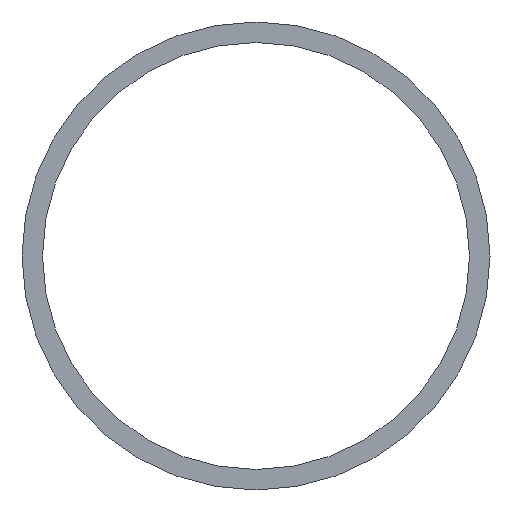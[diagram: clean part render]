
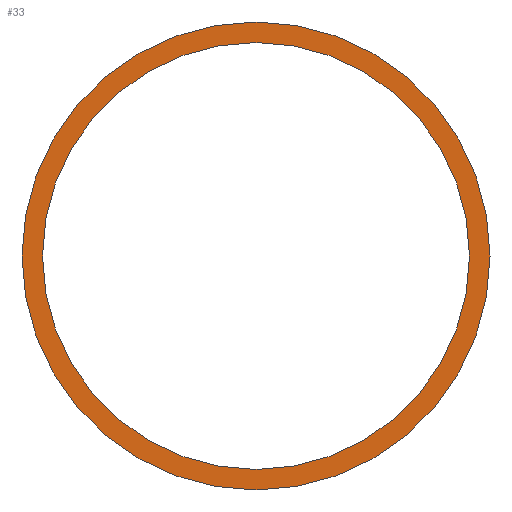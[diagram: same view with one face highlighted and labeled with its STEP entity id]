
A CAD part, front view. The second image highlights one B-rep face of the part: STEP entity #33.
In plain terms, the highlighted planar face has unit normal (0, -1, 0).
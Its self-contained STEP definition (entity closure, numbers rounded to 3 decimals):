
#27=FACE_BOUND('',#45,.F.);
#29=PLANE('',#135);
#33=ADVANCED_FACE('',(#27,#39),#29,.T.);
#39=FACE_OUTER_BOUND('',#46,.F.);
#45=EDGE_LOOP('',(#59,#60));
#46=EDGE_LOOP('',(#61,#62));
#59=ORIENTED_EDGE('',*,*,#103,.T.);
#60=ORIENTED_EDGE('',*,*,#95,.T.);
#61=ORIENTED_EDGE('',*,*,#106,.F.);
#62=ORIENTED_EDGE('',*,*,#98,.F.);
#95=EDGE_CURVE('',#122,#121,#107,.T.);
#98=EDGE_CURVE('',#116,#115,#110,.T.);
#103=EDGE_CURVE('',#121,#122,#111,.T.);
#106=EDGE_CURVE('',#115,#116,#114,.T.);
#107=CIRCLE('',#125,1.715);
#110=CIRCLE('',#128,1.88);
#111=CIRCLE('',#129,1.715);
#114=CIRCLE('',#132,1.88);
#115=VERTEX_POINT('',#177);
#116=VERTEX_POINT('',#178);
#121=VERTEX_POINT('',#183);
#122=VERTEX_POINT('',#184);
#125=AXIS2_PLACEMENT_3D('',#185,#142,#143);
#128=AXIS2_PLACEMENT_3D('',#188,#148,#149);
#129=AXIS2_PLACEMENT_3D('',#193,#154,#155);
#132=AXIS2_PLACEMENT_3D('',#196,#160,#161);
#135=AXIS2_PLACEMENT_3D('',#199,#166,#167);
#142=DIRECTION('',(0.,-1.,0.));
#143=DIRECTION('',(-1.,0.,0.));
#148=DIRECTION('',(0.,-1.,0.));
#149=DIRECTION('',(-1.,0.,0.));
#154=DIRECTION('',(0.,-1.,0.));
#155=DIRECTION('',(1.,0.,0.));
#160=DIRECTION('',(0.,-1.,0.));
#161=DIRECTION('',(1.,0.,0.));
#166=DIRECTION('',(0.,-1.,0.));
#167=DIRECTION('',(0.,0.,1.));
#177=CARTESIAN_POINT('',(789.934,596.316,300.77));
#178=CARTESIAN_POINT('',(786.175,596.316,300.77));
#183=CARTESIAN_POINT('',(789.769,596.316,300.77));
#184=CARTESIAN_POINT('',(786.34,596.316,300.77));
#185=CARTESIAN_POINT('',(788.054,596.316,300.77));
#188=CARTESIAN_POINT('',(788.054,596.316,300.77));
#193=CARTESIAN_POINT('',(788.054,596.316,300.77));
#196=CARTESIAN_POINT('',(788.054,596.316,300.77));
#199=CARTESIAN_POINT('',(789.972,596.316,298.853));
